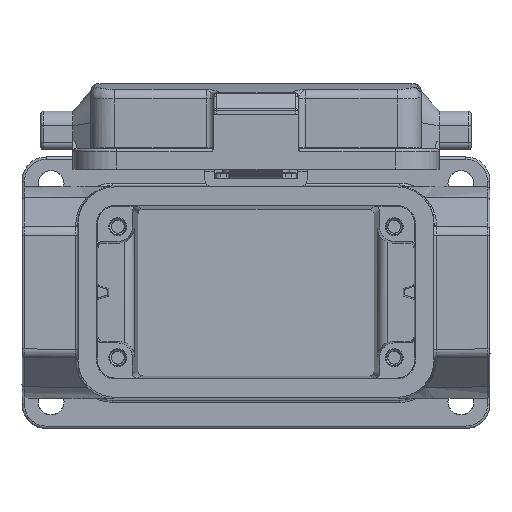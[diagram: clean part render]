
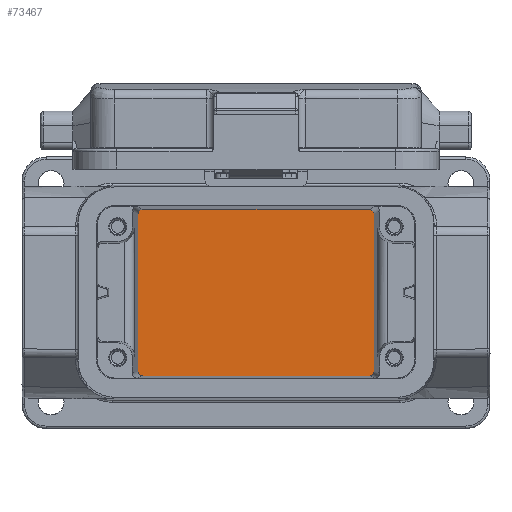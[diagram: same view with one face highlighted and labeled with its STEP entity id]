
A CAD part, top view. The second image highlights one B-rep face of the part: STEP entity #73467.
In plain terms, the highlighted planar face has unit normal (0, 0, 1) as drawn and (0, 1, 0) by its records, which use the part's own axes.
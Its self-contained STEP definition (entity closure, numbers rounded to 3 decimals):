
#382 = CARTESIAN_POINT ( 'NONE',  ( 16.181, 4., -14.108 ) ) ;
#880 = CARTESIAN_POINT ( 'NONE',  ( -16.766, 4., -14.108 ) ) ;
#911 = VERTEX_POINT ( 'NONE', #18498 ) ;
#2317 = DIRECTION ( 'NONE',  ( 0., 1., 0. ) ) ;
#3830 = VECTOR ( 'NONE', #59868, 1000. ) ;
#5225 =( BOUNDED_CURVE ( )  B_SPLINE_CURVE ( 3, ( #58532, #51727, #77231, #32099 ),
 .UNSPECIFIED., .F., .F. ) 
 B_SPLINE_CURVE_WITH_KNOTS ( ( 4, 4 ),
 ( 5.176, 6.747 ),
 .UNSPECIFIED. ) 
 CURVE ( )  GEOMETRIC_REPRESENTATION_ITEM ( )  RATIONAL_B_SPLINE_CURVE ( ( 1., 0.805, 0.805, 1. ) ) 
 REPRESENTATION_ITEM ( '' )  );
#5538 = EDGE_CURVE ( 'NONE', #37701, #69322, #16420, .T. ) ;
#6324 = CARTESIAN_POINT ( 'NONE',  ( -16.181, 4., -14.108 ) ) ;
#6339 = EDGE_LOOP ( 'NONE', ( #65674, #16251, #27213, #72529, #76755, #42039, #83521, #49030 ) ) ;
#7536 = EDGE_CURVE ( 'NONE', #60533, #78661, #16077, .T. ) ;
#7633 = EDGE_CURVE ( 'NONE', #78661, #61464, #35648, .T. ) ;
#9724 = FACE_OUTER_BOUND ( 'NONE', #6339, .T. ) ;
#10232 = CARTESIAN_POINT ( 'NONE',  ( 16.181, 4., 34.608 ) ) ;
#12525 = LINE ( 'NONE', #62460, #76542 ) ;
#13804 = CARTESIAN_POINT ( 'NONE',  ( 0., 4., -14.108 ) ) ;
#13836 = CARTESIAN_POINT ( 'NONE',  ( 17.18, 4., 34.194 ) ) ;
#15238 =( BOUNDED_CURVE ( )  B_SPLINE_CURVE ( 3, ( #6324, #880, #72462, #78157 ),
 .UNSPECIFIED., .F., .F. ) 
 B_SPLINE_CURVE_WITH_KNOTS ( ( 4, 4 ),
 ( 2.678, 4.249 ),
 .UNSPECIFIED. ) 
 CURVE ( )  GEOMETRIC_REPRESENTATION_ITEM ( )  RATIONAL_B_SPLINE_CURVE ( ( 1., 0.805, 0.805, 1. ) ) 
 REPRESENTATION_ITEM ( '' )  );
#16077 = LINE ( 'NONE', #45991, #3830 ) ;
#16251 = ORIENTED_EDGE ( 'NONE', *, *, #65550, .T. ) ;
#16420 =( BOUNDED_CURVE ( )  B_SPLINE_CURVE ( 3, ( #23490, #55943, #82007, #382 ),
 .UNSPECIFIED., .F., .F. ) 
 B_SPLINE_CURVE_WITH_KNOTS ( ( 4, 4 ),
 ( 5.176, 6.747 ),
 .UNSPECIFIED. ) 
 CURVE ( )  GEOMETRIC_REPRESENTATION_ITEM ( )  RATIONAL_B_SPLINE_CURVE ( ( 1., 0.805, 0.805, 1. ) ) 
 REPRESENTATION_ITEM ( '' )  );
#18498 = CARTESIAN_POINT ( 'NONE',  ( -17.18, 4., -13.108 ) ) ;
#20421 = CARTESIAN_POINT ( 'NONE',  ( -17.18, 4., 33.608 ) ) ;
#20488 = VERTEX_POINT ( 'NONE', #66928 ) ;
#21392 = CARTESIAN_POINT ( 'NONE',  ( -16.181, 4., 34.608 ) ) ;
#23462 = CARTESIAN_POINT ( 'NONE',  ( 16.181, 4., -14.108 ) ) ;
#23490 = CARTESIAN_POINT ( 'NONE',  ( 17.18, 4., -13.108 ) ) ;
#27137 = DIRECTION ( 'NONE',  ( -1., 0., 0. ) ) ;
#27213 = ORIENTED_EDGE ( 'NONE', *, *, #80312, .T. ) ;
#28450 = PLANE ( 'NONE',  #57861 ) ;
#32099 = CARTESIAN_POINT ( 'NONE',  ( -16.181, 4., 34.608 ) ) ;
#33248 = CARTESIAN_POINT ( 'NONE',  ( -17.18, 4., -42.06 ) ) ;
#35648 =( BOUNDED_CURVE ( )  B_SPLINE_CURVE ( 3, ( #72051, #78575, #13836, #65827 ),
 .UNSPECIFIED., .F., .F. ) 
 B_SPLINE_CURVE_WITH_KNOTS ( ( 4, 4 ),
 ( 2.678, 4.249 ),
 .UNSPECIFIED. ) 
 CURVE ( )  GEOMETRIC_REPRESENTATION_ITEM ( )  RATIONAL_B_SPLINE_CURVE ( ( 1., 0.805, 0.805, 1. ) ) 
 REPRESENTATION_ITEM ( '' )  );
#35837 = DIRECTION ( 'NONE',  ( 0., 0., 1. ) ) ;
#37701 = VERTEX_POINT ( 'NONE', #43261 ) ;
#38641 = VERTEX_POINT ( 'NONE', #20421 ) ;
#39299 = EDGE_CURVE ( 'NONE', #61464, #37701, #12525, .T. ) ;
#42039 = ORIENTED_EDGE ( 'NONE', *, *, #39299, .T. ) ;
#43261 = CARTESIAN_POINT ( 'NONE',  ( 17.18, 4., -13.108 ) ) ;
#44085 = VECTOR ( 'NONE', #27137, 1000. ) ;
#45991 = CARTESIAN_POINT ( 'NONE',  ( 0., 4., 34.608 ) ) ;
#46605 = DIRECTION ( 'NONE',  ( 0., 0., 1. ) ) ;
#49030 = ORIENTED_EDGE ( 'NONE', *, *, #53966, .T. ) ;
#51057 = LINE ( 'NONE', #33248, #73337 ) ;
#51287 = CARTESIAN_POINT ( 'NONE',  ( 17.18, 4., 33.608 ) ) ;
#51727 = CARTESIAN_POINT ( 'NONE',  ( -17.18, 4., 34.194 ) ) ;
#53966 = EDGE_CURVE ( 'NONE', #69322, #20488, #79520, .T. ) ;
#54851 = EDGE_CURVE ( 'NONE', #20488, #911, #15238, .T. ) ;
#55943 = CARTESIAN_POINT ( 'NONE',  ( 17.18, 4., -13.694 ) ) ;
#56222 = DIRECTION ( 'NONE',  ( 0., 0., -1. ) ) ;
#57861 = AXIS2_PLACEMENT_3D ( 'NONE', #61728, #2317, #35837 ) ;
#58532 = CARTESIAN_POINT ( 'NONE',  ( -17.18, 4., 33.608 ) ) ;
#59868 = DIRECTION ( 'NONE',  ( 1., 0., 0. ) ) ;
#60533 = VERTEX_POINT ( 'NONE', #21392 ) ;
#61464 = VERTEX_POINT ( 'NONE', #51287 ) ;
#61728 = CARTESIAN_POINT ( 'NONE',  ( 0., 4., 0. ) ) ;
#62460 = CARTESIAN_POINT ( 'NONE',  ( 17.18, 4., 42.06 ) ) ;
#65550 = EDGE_CURVE ( 'NONE', #911, #38641, #51057, .T. ) ;
#65674 = ORIENTED_EDGE ( 'NONE', *, *, #54851, .T. ) ;
#65827 = CARTESIAN_POINT ( 'NONE',  ( 17.18, 4., 33.608 ) ) ;
#66928 = CARTESIAN_POINT ( 'NONE',  ( -16.181, 4., -14.108 ) ) ;
#69322 = VERTEX_POINT ( 'NONE', #23462 ) ;
#72051 = CARTESIAN_POINT ( 'NONE',  ( 16.181, 4., 34.608 ) ) ;
#72462 = CARTESIAN_POINT ( 'NONE',  ( -17.18, 4., -13.694 ) ) ;
#72529 = ORIENTED_EDGE ( 'NONE', *, *, #7536, .T. ) ;
#73337 = VECTOR ( 'NONE', #46605, 1000. ) ;
#73467 = ADVANCED_FACE ( 'NONE', ( #9724 ), #28450, .T. ) ;
#76542 = VECTOR ( 'NONE', #56222, 1000. ) ;
#76755 = ORIENTED_EDGE ( 'NONE', *, *, #7633, .T. ) ;
#77231 = CARTESIAN_POINT ( 'NONE',  ( -16.766, 4., 34.608 ) ) ;
#78157 = CARTESIAN_POINT ( 'NONE',  ( -17.18, 4., -13.108 ) ) ;
#78575 = CARTESIAN_POINT ( 'NONE',  ( 16.766, 4., 34.608 ) ) ;
#78661 = VERTEX_POINT ( 'NONE', #10232 ) ;
#79520 = LINE ( 'NONE', #13804, #44085 ) ;
#80312 = EDGE_CURVE ( 'NONE', #38641, #60533, #5225, .T. ) ;
#82007 = CARTESIAN_POINT ( 'NONE',  ( 16.766, 4., -14.108 ) ) ;
#83521 = ORIENTED_EDGE ( 'NONE', *, *, #5538, .T. ) ;
